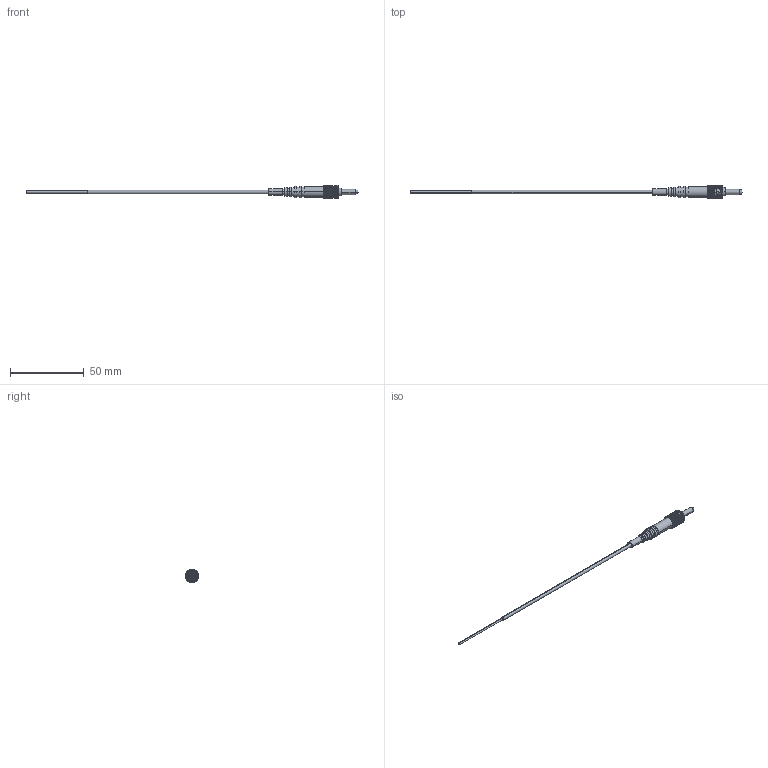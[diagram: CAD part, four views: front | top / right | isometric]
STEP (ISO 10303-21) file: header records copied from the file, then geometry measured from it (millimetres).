
FILE_DESCRIPTION (( 'STEP AP214' ), '1' );
FILE_NAME ('PRB-100.STEP', '2019-03-04T19:21:43', ( '' ), ( '' ), 'SwSTEP 2.0', 'SolidWorks 2017', '' );
FILE_SCHEMA (( 'AUTOMOTIVE_DESIGN' ));
Length unit declared in the file: millimetre
Products named in the file (1): PRB-100
Bounding box: 225.35 x 9.02 x 9.02 mm (x, y, z)
Surface area: 4494 mm2 (no closed solid volume)
Topology: 0 solids, 6 shells, 473 faces, 1396 edges, 929 vertices
Faces by surface type: plane 284, cylinder 169, bspline 14, sphere 2, torus 2, cone 2
Entity records: 15881 total; most frequent: CARTESIAN_POINT 3169, ORIENTED_EDGE 2720, DIRECTION 2574, EDGE_CURVE 1392, LINE 966, VECTOR 966, VERTEX_POINT 927, AXIS2_PLACEMENT_3D 804
